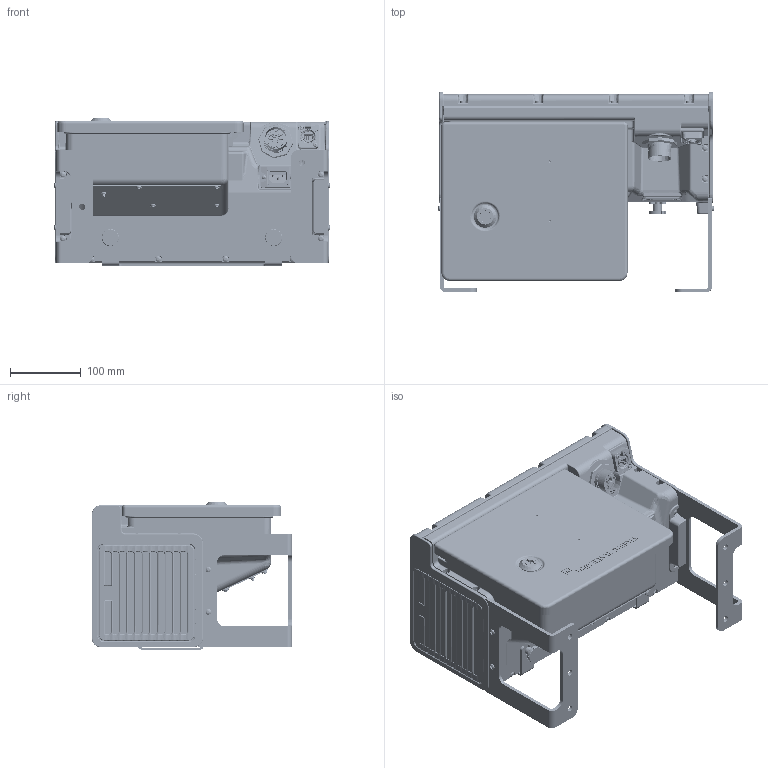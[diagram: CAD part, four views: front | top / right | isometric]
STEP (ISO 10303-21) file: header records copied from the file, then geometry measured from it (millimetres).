
FILE_DESCRIPTION (( 'STEP AP214' ), '1' );
FILE_NAME ('776-904-02_Filled_Packaging.STEP', '2026-10-02T11:53:42', ( '' ), ( '' ), 'SwSTEP 2.0', 'SolidWorks 2025', '' );
FILE_SCHEMA (( 'AUTOMOTIVE_DESIGN' ));
Products named in the file (1): 776-904-02_Filled_Packaging
Bounding box: 390.84 x 283.47 x 208.4 mm (x, y, z)
Surface area: 908625.5 mm2 (no closed solid volume)
Topology: 0 solids, 194 shells, 14899 faces, 39290 edges, 24819 vertices
Faces by surface type: plane 8861, cylinder 3593, bspline 1559, cone 521, torus 205, sphere 160
Entity records: 514599 total; most frequent: CARTESIAN_POINT 167975, ORIENTED_EDGE 77968, DIRECTION 63858, EDGE_CURVE 39026, VERTEX_POINT 24785, LINE 23148, VECTOR 23148, AXIS2_PLACEMENT_3D 20355
